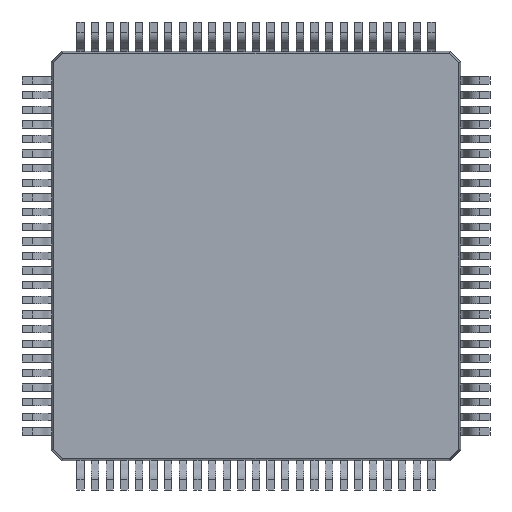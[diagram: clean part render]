
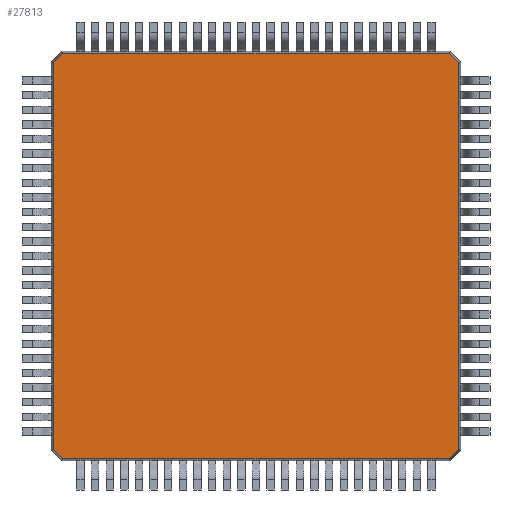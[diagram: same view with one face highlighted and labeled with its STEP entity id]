
A CAD part, front view. The second image highlights one B-rep face of the part: STEP entity #27813.
In plain terms, the highlighted planar face has unit normal (0, -1, 0).
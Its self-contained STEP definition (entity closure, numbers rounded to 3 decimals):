
#22936 = EDGE_CURVE ( 'NONE', #22938, #22937, #38842, .T. ) ;
#22937 = VERTEX_POINT ( 'NONE', #38838 ) ;
#22938 = VERTEX_POINT ( 'NONE', #38837 ) ;
#26485 = VERTEX_POINT ( 'NONE', #48852 ) ;
#26487 = EDGE_CURVE ( 'NONE', #26485, #26488, #48851, .T. ) ;
#26488 = VERTEX_POINT ( 'NONE', #48847 ) ;
#26895 = VERTEX_POINT ( 'NONE', #49698 ) ;
#26897 = EDGE_CURVE ( 'NONE', #26895, #26898, #49697, .T. ) ;
#26898 = VERTEX_POINT ( 'NONE', #49693 ) ;
#27406 = EDGE_CURVE ( 'NONE', #27496, #27411, #50570, .T. ) ;
#27411 = VERTEX_POINT ( 'NONE', #50561 ) ;
#27413 = EDGE_CURVE ( 'NONE', #27411, #26485, #50560, .T. ) ;
#27496 = VERTEX_POINT ( 'NONE', #50669 ) ;
#27737 = ORIENTED_EDGE ( 'NONE', *, *, #27762, .F. ) ;
#27738 = ORIENTED_EDGE ( 'NONE', *, *, #26897, .F. ) ;
#27739 = ORIENTED_EDGE ( 'NONE', *, *, #27745, .F. ) ;
#27740 = ORIENTED_EDGE ( 'NONE', *, *, #22936, .F. ) ;
#27741 = ORIENTED_EDGE ( 'NONE', *, *, #27753, .F. ) ;
#27745 = EDGE_CURVE ( 'NONE', #22937, #26895, #51082, .T. ) ;
#27753 = EDGE_CURVE ( 'NONE', #26488, #22938, #51126, .T. ) ;
#27762 = EDGE_CURVE ( 'NONE', #26898, #27496, #51108, .T. ) ;
#27813 = ADVANCED_FACE ( 'NONE', ( #51210 ), #51208, .T. ) ;
#27814 = EDGE_LOOP ( 'NONE', ( #27815, #27816, #27817, #27737, #27738, #27739, #27740, #27741 ) ) ;
#27815 = ORIENTED_EDGE ( 'NONE', *, *, #26487, .F. ) ;
#27816 = ORIENTED_EDGE ( 'NONE', *, *, #27413, .F. ) ;
#27817 = ORIENTED_EDGE ( 'NONE', *, *, #27406, .F. ) ;
#38837 = CARTESIAN_POINT ( 'NONE',  ( -6.603, 0.2, 6.912 ) ) ;
#38838 = CARTESIAN_POINT ( 'NONE',  ( 6.603, 0.2, 6.912 ) ) ;
#38839 = DIRECTION ( 'NONE',  ( 1., 0., 0. ) ) ;
#38840 = VECTOR ( 'NONE', #38839, 1000. ) ;
#38841 = CARTESIAN_POINT ( 'NONE',  ( -6.64, 0.2, 6.912 ) ) ;
#38842 = LINE ( 'NONE', #38841, #38840 ) ;
#48847 = CARTESIAN_POINT ( 'NONE',  ( -6.912, 0.2, 6.603 ) ) ;
#48848 = DIRECTION ( 'NONE',  ( 0., 0., 1. ) ) ;
#48849 = VECTOR ( 'NONE', #48848, 1000. ) ;
#48850 = CARTESIAN_POINT ( 'NONE',  ( -6.912, 0.2, 6.64 ) ) ;
#48851 = LINE ( 'NONE', #48850, #48849 ) ;
#48852 = CARTESIAN_POINT ( 'NONE',  ( -6.912, 0.2, -6.603 ) ) ;
#49693 = CARTESIAN_POINT ( 'NONE',  ( 6.912, 0.2, -6.603 ) ) ;
#49694 = DIRECTION ( 'NONE',  ( 0., 0., -1. ) ) ;
#49695 = VECTOR ( 'NONE', #49694, 1000. ) ;
#49696 = CARTESIAN_POINT ( 'NONE',  ( 6.912, 0.2, 6.64 ) ) ;
#49697 = LINE ( 'NONE', #49696, #49695 ) ;
#49698 = CARTESIAN_POINT ( 'NONE',  ( 6.912, 0.2, 6.603 ) ) ;
#50557 = DIRECTION ( 'NONE',  ( -0.707, 0., 0.707 ) ) ;
#50558 = VECTOR ( 'NONE', #50557, 1000. ) ;
#50559 = CARTESIAN_POINT ( 'NONE',  ( -6.938, 0.2, -6.578 ) ) ;
#50560 = LINE ( 'NONE', #50559, #50558 ) ;
#50561 = CARTESIAN_POINT ( 'NONE',  ( -6.603, 0.2, -6.912 ) ) ;
#50567 = DIRECTION ( 'NONE',  ( -1., 0., 0. ) ) ;
#50568 = VECTOR ( 'NONE', #50567, 1000. ) ;
#50569 = CARTESIAN_POINT ( 'NONE',  ( -6.64, 0.2, -6.912 ) ) ;
#50570 = LINE ( 'NONE', #50569, #50568 ) ;
#50669 = CARTESIAN_POINT ( 'NONE',  ( 6.603, 0.2, -6.912 ) ) ;
#51074 = DIRECTION ( 'NONE',  ( 0.707, 0., -0.707 ) ) ;
#51075 = VECTOR ( 'NONE', #51074, 1000. ) ;
#51076 = CARTESIAN_POINT ( 'NONE',  ( 6.578, 0.2, 6.938 ) ) ;
#51082 = LINE ( 'NONE', #51076, #51075 ) ;
#51104 = DIRECTION ( 'NONE',  ( -0.707, 0., -0.707 ) ) ;
#51105 = VECTOR ( 'NONE', #51104, 1000. ) ;
#51106 = CARTESIAN_POINT ( 'NONE',  ( 6.578, 0.2, -6.938 ) ) ;
#51108 = LINE ( 'NONE', #51106, #51105 ) ;
#51123 = DIRECTION ( 'NONE',  ( 0.707, 0., 0.707 ) ) ;
#51124 = VECTOR ( 'NONE', #51123, 1000. ) ;
#51125 = CARTESIAN_POINT ( 'NONE',  ( -6.938, 0.2, 6.578 ) ) ;
#51126 = LINE ( 'NONE', #51125, #51124 ) ;
#51204 = DIRECTION ( 'NONE',  ( 0., 0., -1. ) ) ;
#51205 = DIRECTION ( 'NONE',  ( 0., -1., 0. ) ) ;
#51206 = CARTESIAN_POINT ( 'NONE',  ( -7., 0.2, -7. ) ) ;
#51207 = AXIS2_PLACEMENT_3D ( 'NONE', #51206, #51205, #51204 ) ;
#51208 = PLANE ( 'NONE',  #51207 ) ;
#51210 = FACE_OUTER_BOUND ( 'NONE', #27814, .T. ) ;
